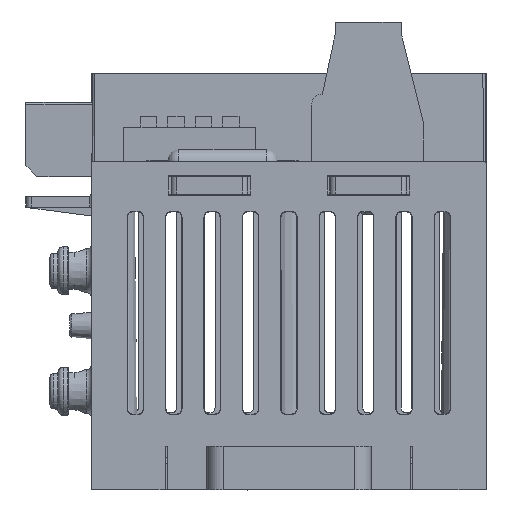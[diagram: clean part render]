
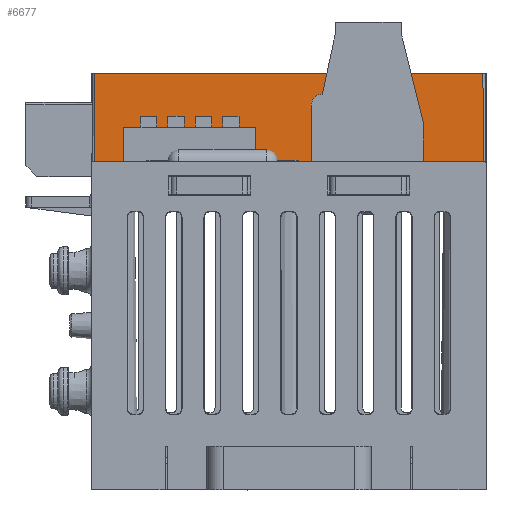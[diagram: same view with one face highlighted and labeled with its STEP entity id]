
A CAD part, front view. The second image highlights one B-rep face of the part: STEP entity #6677.
In plain terms, the highlighted planar face has unit normal (0, -1, 0.009).
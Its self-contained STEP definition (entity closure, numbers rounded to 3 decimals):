
#365 = EDGE_CURVE ( 'NONE', #33257, #45636, #32304, .T. ) ;
#2551 = VERTEX_POINT ( 'NONE', #7106 ) ;
#2580 = CARTESIAN_POINT ( 'NONE',  ( -17.7, 41.972, 9.4 ) ) ;
#4642 = ORIENTED_EDGE ( 'NONE', *, *, #42213, .T. ) ;
#5768 = DIRECTION ( 'NONE',  ( 0., -1., 0.009 ) ) ;
#6044 = CARTESIAN_POINT ( 'NONE',  ( 17.7, 41.972, 9.4 ) ) ;
#6341 = CARTESIAN_POINT ( 'NONE',  ( 17.75, 41.89, 0. ) ) ;
#6677 = ADVANCED_FACE ( 'NONE', ( #50948 ), #33489, .T. ) ;
#7106 = CARTESIAN_POINT ( 'NONE',  ( -17.782, 41.89, 0. ) ) ;
#7859 = VERTEX_POINT ( 'NONE', #6044 ) ;
#8379 = DIRECTION ( 'NONE',  ( -0.009, 0.009, 1. ) ) ;
#8902 = CARTESIAN_POINT ( 'NONE',  ( 0., 41.89, 0. ) ) ;
#17595 = ORIENTED_EDGE ( 'NONE', *, *, #43736, .T. ) ;
#20119 = DIRECTION ( 'NONE',  ( -0.009, -0.009, -1. ) ) ;
#20492 = DIRECTION ( 'NONE',  ( 1., 0., 0. ) ) ;
#21056 = ORIENTED_EDGE ( 'NONE', *, *, #38271, .T. ) ;
#22917 = VERTEX_POINT ( 'NONE', #27002 ) ;
#23281 = VECTOR ( 'NONE', #26246, 1000. ) ;
#23595 = VERTEX_POINT ( 'NONE', #2580 ) ;
#24273 = LINE ( 'NONE', #36887, #37064 ) ;
#25418 = AXIS2_PLACEMENT_3D ( 'NONE', #29725, #5768, #34285 ) ;
#26033 = ORIENTED_EDGE ( 'NONE', *, *, #365, .F. ) ;
#26246 = DIRECTION ( 'NONE',  ( -1., 0., 0. ) ) ;
#27002 = CARTESIAN_POINT ( 'NONE',  ( -17.75, 41.89, 0. ) ) ;
#27151 = CARTESIAN_POINT ( 'NONE',  ( 17.9, 41.972, 9.4 ) ) ;
#27220 = DIRECTION ( 'NONE',  ( -1., 0., 0. ) ) ;
#28289 = LINE ( 'NONE', #8902, #39139 ) ;
#29725 = CARTESIAN_POINT ( 'NONE',  ( 17.9, 41.972, 9.4 ) ) ;
#29866 = LINE ( 'NONE', #27151, #41363 ) ;
#30568 = EDGE_CURVE ( 'NONE', #23595, #7859, #29866, .T. ) ;
#30808 = LINE ( 'NONE', #47205, #23281 ) ;
#31785 = CARTESIAN_POINT ( 'NONE',  ( 17.9, 41.89, 0. ) ) ;
#31959 = ORIENTED_EDGE ( 'NONE', *, *, #50372, .F. ) ;
#32304 = LINE ( 'NONE', #31785, #39177 ) ;
#33257 = VERTEX_POINT ( 'NONE', #48205 ) ;
#33489 = PLANE ( 'NONE',  #25418 ) ;
#34285 = DIRECTION ( 'NONE',  ( 0., -0.009, -1. ) ) ;
#34561 = ORIENTED_EDGE ( 'NONE', *, *, #30568, .F. ) ;
#34738 = VECTOR ( 'NONE', #20119, 1000. ) ;
#36887 = CARTESIAN_POINT ( 'NONE',  ( 17.7, 41.972, 9.398 ) ) ;
#37064 = VECTOR ( 'NONE', #8379, 1000. ) ;
#38271 = EDGE_CURVE ( 'NONE', #33257, #7859, #24273, .T. ) ;
#39139 = VECTOR ( 'NONE', #20492, 1000. ) ;
#39177 = VECTOR ( 'NONE', #27220, 1000. ) ;
#41363 = VECTOR ( 'NONE', #52683, 1000. ) ;
#42213 = EDGE_CURVE ( 'NONE', #23595, #2551, #49137, .T. ) ;
#43381 = EDGE_LOOP ( 'NONE', ( #26033, #21056, #34561, #4642, #31959, #17595 ) ) ;
#43736 = EDGE_CURVE ( 'NONE', #22917, #45636, #28289, .T. ) ;
#45372 = CARTESIAN_POINT ( 'NONE',  ( -17.697, 41.975, 9.711 ) ) ;
#45636 = VERTEX_POINT ( 'NONE', #6341 ) ;
#47205 = CARTESIAN_POINT ( 'NONE',  ( -17.782, 41.89, 0. ) ) ;
#48205 = CARTESIAN_POINT ( 'NONE',  ( 17.782, 41.89, 0. ) ) ;
#49137 = LINE ( 'NONE', #45372, #34738 ) ;
#50372 = EDGE_CURVE ( 'NONE', #22917, #2551, #30808, .T. ) ;
#50948 = FACE_OUTER_BOUND ( 'NONE', #43381, .T. ) ;
#52683 = DIRECTION ( 'NONE',  ( 1., 0., 0. ) ) ;
